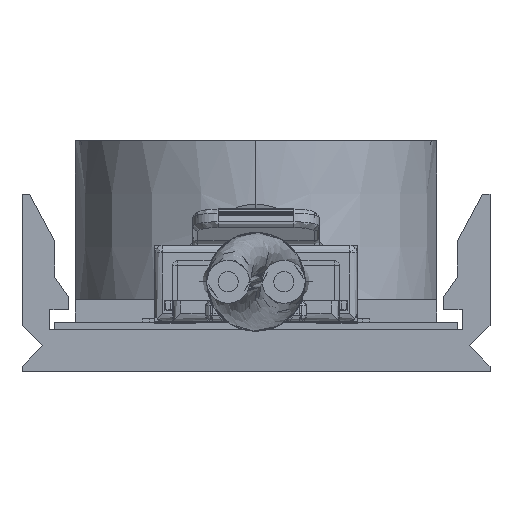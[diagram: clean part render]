
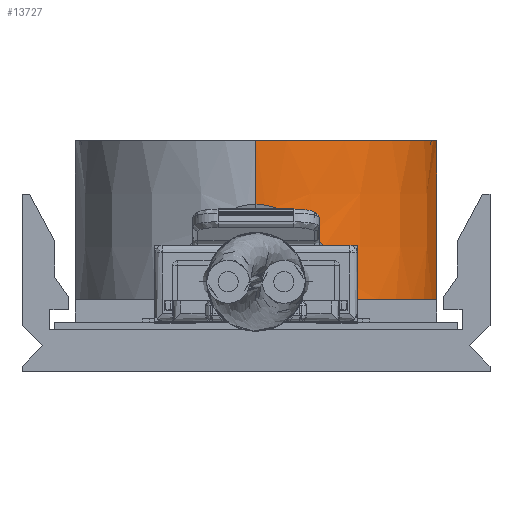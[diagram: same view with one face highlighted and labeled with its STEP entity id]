
A CAD part, left-side view. The second image highlights one B-rep face of the part: STEP entity #13727.
In plain terms, the highlighted conical face has half-angle 0.25 degrees and reference radius 7.183 mm.
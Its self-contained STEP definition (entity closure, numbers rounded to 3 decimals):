
#93 = FACE_OUTER_BOUND ( 'NONE', #11199, .T. ) ;
#915 = DIRECTION ( 'NONE',  ( 0., 0., -1. ) ) ;
#1516 = DIRECTION ( 'NONE',  ( 0., 0., -1. ) ) ;
#1774 = ORIENTED_EDGE ( 'NONE', *, *, #25255, .T. ) ;
#2002 = AXIS2_PLACEMENT_3D ( 'NONE', #17528, #915, #31691 ) ;
#2439 = B_SPLINE_CURVE_WITH_KNOTS ( 'NONE', 3,
 ( #9514, #29231, #32540, #15682 ),
 .UNSPECIFIED., .F., .F.,
 ( 4, 4 ),
 ( 0., 1. ),
 .UNSPECIFIED. ) ;
#4646 = DIRECTION ( 'NONE',  ( -1., 0., 0. ) ) ;
#4884 = DIRECTION ( 'NONE',  ( 0., 0., -1. ) ) ;
#5858 = VECTOR ( 'NONE', #28514, 1000. ) ;
#6179 = CARTESIAN_POINT ( 'NONE',  ( 148660.651, 3996.049, -299.4 ) ) ;
#7057 = CARTESIAN_POINT ( 'NONE',  ( 148666.65, 4000., -299.4 ) ) ;
#7637 = CARTESIAN_POINT ( 'NONE',  ( 148659.484, 4000., -295.636 ) ) ;
#7764 = CARTESIAN_POINT ( 'NONE',  ( 148659.484, 3998.588, -295.636 ) ) ;
#8815 = CARTESIAN_POINT ( 'NONE',  ( 148659.467, 4000., -299.4 ) ) ;
#9514 = CARTESIAN_POINT ( 'NONE',  ( 148666.369, 3992.85, -293.127 ) ) ;
#9700 = CIRCLE ( 'NONE', #30542, 7.156 ) ;
#10449 = CARTESIAN_POINT ( 'NONE',  ( 148660.651, 3996.049, -299.4 ) ) ;
#10544 = CARTESIAN_POINT ( 'NONE',  ( 148666.65, 4000., -293.127 ) ) ;
#11199 = EDGE_LOOP ( 'NONE', ( #1774, #18394, #20001, #34230, #16727 ) ) ;
#11352 = CARTESIAN_POINT ( 'NONE',  ( 148659.484, 4000., -295.636 ) ) ;
#12844 = CIRCLE ( 'NONE', #33382, 7.183 ) ;
#13727 = ADVANCED_FACE ( 'NONE', ( #93 ), #17709, .T. ) ;
#13871 = EDGE_CURVE ( 'NONE', #26527, #17355, #12844, .T. ) ;
#15682 = CARTESIAN_POINT ( 'NONE',  ( 148665.963, 3992.85, -299.4 ) ) ;
#16727 = ORIENTED_EDGE ( 'NONE', *, *, #24383, .F. ) ;
#17355 = VERTEX_POINT ( 'NONE', #6179 ) ;
#17528 = CARTESIAN_POINT ( 'NONE',  ( 148666.65, 4000., -299.4 ) ) ;
#17632 = CARTESIAN_POINT ( 'NONE',  ( 148665.963, 3992.85, -299.4 ) ) ;
#17709 = CONICAL_SURFACE ( 'NONE', #2002, 7.183, 0.004 ) ;
#18394 = ORIENTED_EDGE ( 'NONE', *, *, #21425, .T. ) ;
#20001 = ORIENTED_EDGE ( 'NONE', *, *, #35767, .T. ) ;
#20111 = VERTEX_POINT ( 'NONE', #28524 ) ;
#21425 = EDGE_CURVE ( 'NONE', #20111, #26425, #33614, .T. ) ;
#24383 = EDGE_CURVE ( 'NONE', #26288, #26527, #2439, .T. ) ;
#25255 = EDGE_CURVE ( 'NONE', #26288, #20111, #9700, .T. ) ;
#26288 = VERTEX_POINT ( 'NONE', #33751 ) ;
#26425 = VERTEX_POINT ( 'NONE', #11352 ) ;
#26527 = VERTEX_POINT ( 'NONE', #17632 ) ;
#26754 =( BOUNDED_CURVE ( )  B_SPLINE_CURVE ( 3, ( #7637, #7764, #27445, #10449 ),
 .UNSPECIFIED., .F., .F. ) 
 B_SPLINE_CURVE_WITH_KNOTS ( ( 4, 4 ),
 ( 3.142, 3.716 ),
 .UNSPECIFIED. ) 
 CURVE ( )  GEOMETRIC_REPRESENTATION_ITEM ( )  RATIONAL_B_SPLINE_CURVE ( ( 1., 0.973, 0.973, 1. ) ) 
 REPRESENTATION_ITEM ( '' )  );
#27445 = CARTESIAN_POINT ( 'NONE',  ( 148659.884, 3997.234, -296.926 ) ) ;
#28514 = DIRECTION ( 'NONE',  ( -0.004, 0., -1. ) ) ;
#28524 = CARTESIAN_POINT ( 'NONE',  ( 148659.494, 4000., -293.127 ) ) ;
#29231 = CARTESIAN_POINT ( 'NONE',  ( 148666.234, 3992.85, -294.342 ) ) ;
#30542 = AXIS2_PLACEMENT_3D ( 'NONE', #10544, #4884, #4646 ) ;
#31691 = DIRECTION ( 'NONE',  ( -1., 0., 0. ) ) ;
#32167 = DIRECTION ( 'NONE',  ( -1., 0., 0. ) ) ;
#32540 = CARTESIAN_POINT ( 'NONE',  ( 148666.099, 3992.85, -296.433 ) ) ;
#33382 = AXIS2_PLACEMENT_3D ( 'NONE', #7057, #1516, #32167 ) ;
#33614 = LINE ( 'NONE', #8815, #5858 ) ;
#33751 = CARTESIAN_POINT ( 'NONE',  ( 148666.369, 3992.85, -293.127 ) ) ;
#34230 = ORIENTED_EDGE ( 'NONE', *, *, #13871, .F. ) ;
#35767 = EDGE_CURVE ( 'NONE', #26425, #17355, #26754, .T. ) ;
